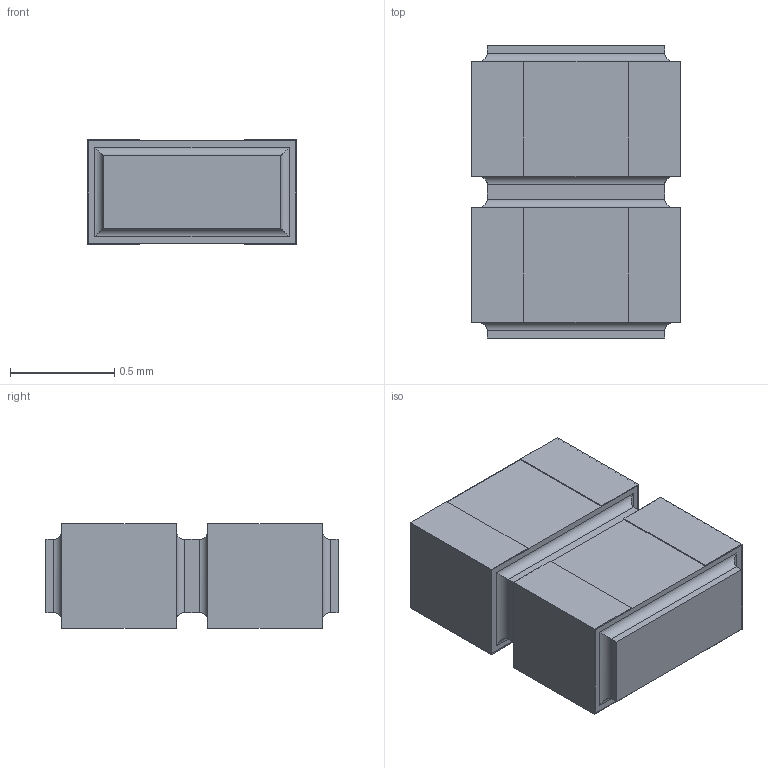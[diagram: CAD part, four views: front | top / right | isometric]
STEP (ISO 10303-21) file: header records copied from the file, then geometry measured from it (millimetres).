
FILE_DESCRIPTION(/* description */ (''),/* implementation_level */ '2;1');
FILE_NAME(/* name */ 'S:\DOCUMENT\AUTOCAD\3D_Modèles\10_3D-pour-VISHAY-COM\PRA\PRA074\PRA074-I2_à_I8\10_IGES\PRA074I2_B-or-N-or-G.stp',/* time_stamp */ '2017-12-19T14:52:01+01:00',/* author */ ('dparmentier'),/* organization */ ('unknown'),/* preprocessor_version */ 'ST-DEVELOPER v17',/* originating_system */ 'Autodesk Inventor 2018',/* authorisation */ '');
FILE_SCHEMA (('AUTOMOTIVE_DESIGN { 1 0 10303 214 3 1 1 }'));
Length unit declared in the file: millimetre
Products named in the file (1): PRA074I2_B-or-N-or-G
Bounding box: 1 x 1.4 x 0.5 mm (x, y, z)
Volume: 0.6 mm3; surface area: 9.6 mm2
Topology: 5 solids, 5 shells, 82 faces, 188 edges, 120 vertices
Faces by surface type: plane 66, cylinder 16
Entity records: 2309 total; most frequent: CARTESIAN_POINT 391, ORIENTED_EDGE 376, DIRECTION 370, EDGE_CURVE 188, LINE 172, VECTOR 172, VERTEX_POINT 120, AXIS2_PLACEMENT_3D 99
